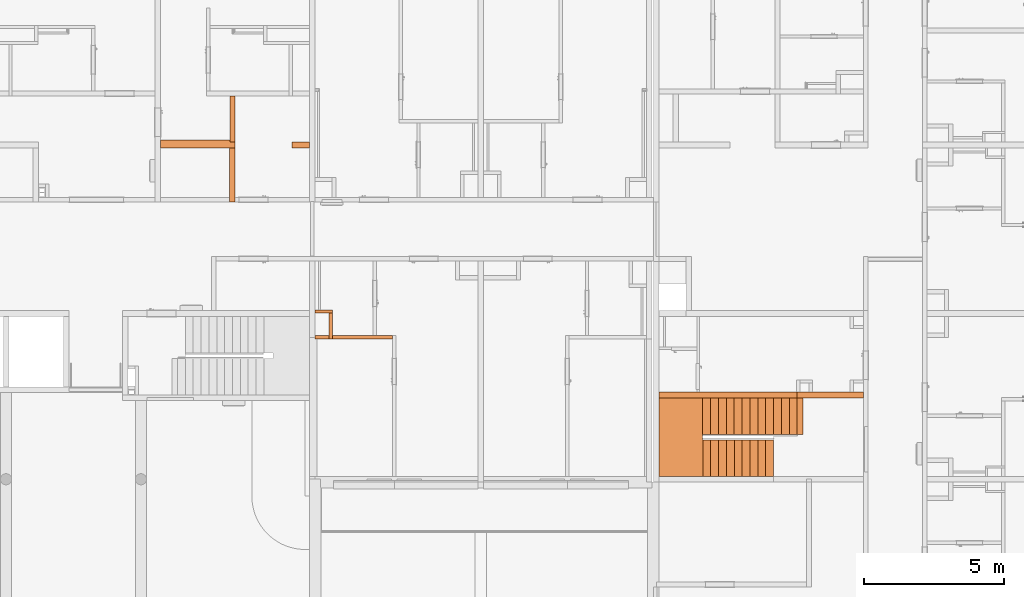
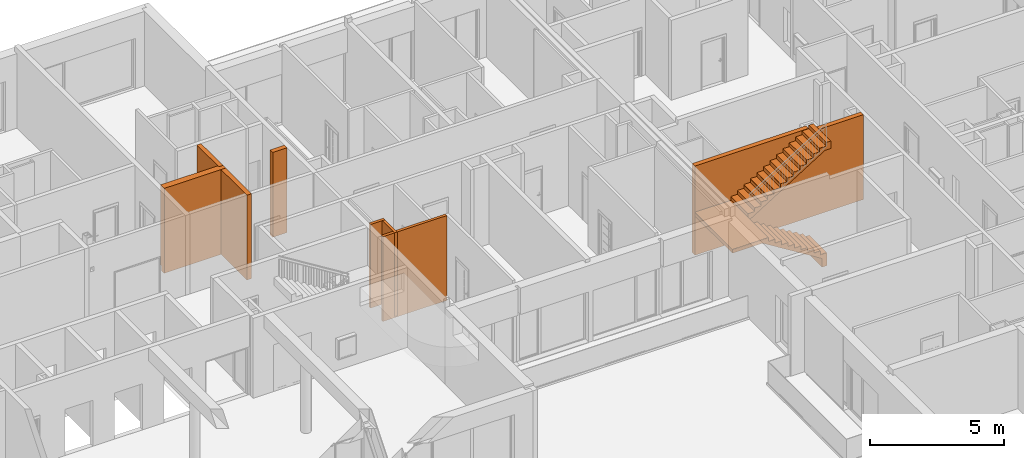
# One storey, part 39 of 46: 9 proxies.
"""IFC2X3 building model written with IfcOpenShell, lengths in millimetres."""

from ifc_helpers import new_model, entity, si_unit, converted_unit, derived_unit, money_unit, direction, frame, origin_with_axes, place, context, subcontext, project, spatial, faceted_brep, material, material_list, type_object, element, save


model = new_model("IFC2X3")

# Units and contexts
model_context = context("Model", 3, precision=0.01, world=origin_with_axes(), true_north=direction((0.34421633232, 0.938890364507)))
body_context = subcontext(model_context, "Body", "Model", "MODEL_VIEW")
ifc_project = project(units=[si_unit("LENGTHUNIT", "METRE", prefix="MILLI"), si_unit("AREAUNIT", "SQUARE_METRE"), si_unit("VOLUMEUNIT", "CUBIC_METRE"), converted_unit("PLANEANGLEUNIT", "DEGREE", entity("IfcPlaneAngleMeasure", 0.0174532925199), si_unit("PLANEANGLEUNIT", "RADIAN"), dimensions=[0, 0, 0, 0, 0, 0, 0]), si_unit("SOLIDANGLEUNIT", "STERADIAN"), money_unit("USD"), converted_unit("TIMEUNIT", "Year", entity("IfcTimeMeasure", 31556926.0), si_unit("TIMEUNIT", "SECOND"), dimensions=[0, 0, 1, 0, 0, 0, 0]), si_unit("MASSUNIT", "GRAM", prefix="KILO"), si_unit("THERMODYNAMICTEMPERATUREUNIT", "DEGREE_CELSIUS"), si_unit("LUMINOUSINTENSITYUNIT", "LUMEN"), si_unit("ENERGYUNIT", "JOULE", prefix="MEGA"), derived_unit("THERMALCONDUCTANCEUNIT", [(si_unit("POWERUNIT", "WATT"), 1), (si_unit("LENGTHUNIT", "METRE"), -1), (si_unit("THERMODYNAMICTEMPERATUREUNIT", "KELVIN"), -1)]), derived_unit("SPECIFICHEATCAPACITYUNIT", [(si_unit("ENERGYUNIT", "JOULE"), 1), (si_unit("MASSUNIT", "GRAM", prefix="KILO"), -1), (si_unit("THERMODYNAMICTEMPERATUREUNIT", "KELVIN"), -1)]), derived_unit("MASSDENSITYUNIT", [(si_unit("MASSUNIT", "GRAM", prefix="KILO"), 1), (si_unit("VOLUMEUNIT", "CUBIC_METRE"), -1)])], contexts=[model_context])

# Site, building, storey
site_placement = place(None, origin_with_axes())
site = spatial("IfcSite", under=ifc_project, at=site_placement, Name="USTRONIE MORSKIE", CompositionType="ELEMENT")
building_placement = place(site_placement, origin_with_axes())
building = spatial("IfcBuilding", under=site, at=building_placement, Name="Budynek", CompositionType="ELEMENT")
storey_placement = place(building_placement, origin_with_axes())
storey = spatial("IfcBuildingStorey", under=building, at=storey_placement, Name="PARTER", CompositionType="ELEMENT", Elevation=0.0)

# Proxies
ifc_material_1 = material(Name="Bloczki silikatowe")
building_element_proxy_type_1 = type_object("IfcBuildingElementProxyType", Name="Bloczki silikatowe 120", PredefinedType="NOTDEFINED")
proxy_1_placement = place(storey_placement, frame((396317.920919, 731951.199132, -230.0), z_axis=(0.0, 0.0, 1.0), x_axis=(1.0, 0.0, 0.0)))
element("IfcBuildingElementProxy", 1, at=proxy_1_placement, inside=storey, type_object=building_element_proxy_type_1, material=ifc_material_1, Name="SW-04", context=body_context, shape_type="Brep", body=[
    faceted_brep([(599.983065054, 59.9999999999, 3870.0), (599.983065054, 59.9999999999, 50.0), (719.983065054, 59.9999999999, 50.0), (719.983065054, 59.9999999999, 3870.0), (2860.01935038, 59.9999999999, 3870.0), (2860.01935038, 59.9999999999, 0.0), (100.0, 59.9999999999, 0.0), (100.0, 59.9999999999, 3870.0), (599.983065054, -59.9999999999, 50.0), (599.983065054, -59.9999999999, 3870.0), (719.983065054, -59.9999999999, 50.0), (719.983065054, -59.9999999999, 3870.0), (2860.01935038, -59.9999999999, 3870.0), (2860.01935038, -59.9999999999, 0.0), (100.0, -59.9999999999, 0.0), (100.0, 0.0, 0.0), (100.0, 0.0, 3870.0), (100.0, -59.9999999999, 3870.0)], [[[0, 1, 2, 3, 4, 5, 6, 7]], [[8, 1, 0, 9]], [[10, 2, 1, 8]], [[10, 11, 3, 2]], [[4, 3, 11, 12]], [[13, 5, 4, 12]], [[14, 15, 6, 5, 13]], [[15, 16, 7, 6]], [[17, 9, 0, 7, 16]], [[10, 8, 9, 17, 14, 13, 12, 11]], [[14, 17, 16, 15]]]),
])
proxy_2_placement = place(storey_placement, frame((396317.920919, 732811.204568, -180.0), z_axis=(0.0, 0.0, 1.0), x_axis=(1.0, 0.0, 0.0)))
element("IfcBuildingElementProxy", 2, at=proxy_2_placement, inside=storey, type_object=building_element_proxy_type_1, material=ifc_material_1, Name="SW-04", context=body_context, shape_type="Brep", body=[
    faceted_brep([(719.983065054, 0.0, 3820.0), (719.983065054, 120.0, 3820.0), (100.0, 120.0, 3820.0), (100.0, 0.0, 3820.0), (719.983065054, 0.0, 0.0), (719.983065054, 120.0, 0.0), (100.0, 120.0, 0.0), (100.0, 0.0, 0.0)], [[[0, 1, 2, 3]], [[1, 0, 4, 5]], [[1, 5, 6, 2]], [[7, 3, 2, 6]], [[4, 0, 3, 7]], [[5, 4, 7, 6]]]),
])
proxy_3_placement = place(storey_placement, frame((396917.903984, 732811.204568, -180.0), z_axis=(0.0, 0.0, 1.0), x_axis=(0.0, -1.0, 0.0)))
element("IfcBuildingElementProxy", 3, at=proxy_3_placement, inside=storey, type_object=building_element_proxy_type_1, material=ifc_material_1, Name="SW-04", context=body_context, shape_type="Brep", body=[
    faceted_brep([(920.005435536, 0.0, 3820.0), (920.005435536, 120.0, 3820.0), (0.0, 120.0, 3820.0), (0.0, 0.0, 3820.0), (920.005435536, 0.0, 0.0), (920.005435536, 120.0, 0.0), (0.0, 120.0, 0.0), (0.0, 0.0, 0.0)], [[[0, 1, 2, 3]], [[1, 0, 4, 5]], [[1, 5, 6, 2]], [[7, 3, 2, 6]], [[4, 0, 3, 7]], [[5, 4, 7, 6]]]),
])
ifc_material_2 = material(Name="Beton konstrukcyjny B25")
ifc_material_3 = material(Name="Płytki podłogowe")
ifc_material_list_1 = material_list([ifc_material_2, ifc_material_2, ifc_material_2, ifc_material_3, ifc_material_3, ifc_material_3, ifc_material_3, ifc_material_3, ifc_material_3, ifc_material_3, ifc_material_3, ifc_material_3, ifc_material_3, ifc_material_3, ifc_material_3, ifc_material_3, ifc_material_3, ifc_material_3, ifc_material_3, ifc_material_3, ifc_material_3, ifc_material_3, ifc_material_3, ifc_material_3, ifc_material_3])
building_element_proxy_type_2 = type_object("IfcBuildingElementProxyType", Name="Typ schodów", PredefinedType="NOTDEFINED")
proxy_4_placement = place(storey_placement, frame((412739.678547, 727001.199036, 0.0), z_axis=(0.0, 0.0, 1.0), x_axis=(-1.0, 0.0, 0.0)))
element("IfcBuildingElementProxy", 4, at=proxy_4_placement, inside=storey, type_object=building_element_proxy_type_2, material=ifc_material_list_1, Name="SCH2", context=body_context, shape_type="Brep", body=[
    faceted_brep([(2520.0, -1299.99999404, 1550.2173913), (2520.0, 0.0, 1550.2173913), (2240.0, 0.0, 1550.2173913), (2240.0, -1300.0, 1550.2173913), (2520.0, -1299.99999404, 1564.13043478), (2520.0, 0.0, 1564.13043478), (2520.0, 0.0, 1408.95401591), (2426.66666667, 0.0, 1350.98300141), (2333.33333333, 0.0, 1293.01198692), (2240.0, 0.0, 1235.04097243), (2146.66666667, 0.0, 1177.06995793), (2053.33333333, 0.0, 1119.09894344), (1960.0, 0.0, 1061.12792895), (1866.66666667, 0.0, 1003.15691446), (1773.33333333, 0.0, 945.185899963), (1680.0, 0.0, 887.214885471), (1586.66666667, 0.0, 829.243870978), (1493.33333333, 0.0, 771.272856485), (1400.0, 0.0, 713.301841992), (1306.66666667, 0.0, 655.3308275), (1213.33333333, 0.0, 597.359813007), (1120.0, 0.0, 539.388798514), (1026.66666667, 0.0, 481.417784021), (933.333333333, 0.0, 423.446769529), (840.0, 0.0, 365.475755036), (746.666666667, 0.0, 307.504740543), (653.333333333, 0.0, 249.53372605), (560.0, 0.0, 191.562711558), (466.666666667, 0.0, 133.591697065), (373.333333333, 0.0, 75.620682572), (280.0, 0.0, 17.6496680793), (200.0, 0.0, -32.0397729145), (200.0, 0.0, -430.0), (0.0, 0.0, -430.0), (0.0, 0.0, -156.263375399), (0.0, 0.0, 158.913043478), (280.0, 0.0, 158.913043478), (280.0, 0.0, 332.826086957), (560.0, 0.0, 332.826086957), (560.0, 0.0, 506.739130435), (840.0, 0.0, 506.739130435), (840.0, 0.0, 680.652173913), (1120.0, 0.0, 680.652173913), (1120.0, 0.0, 854.565217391), (1400.0, 0.0, 854.565217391), (1400.0, 0.0, 1028.47826087), (1680.0, 0.0, 1028.47826087), (1680.0, 0.0, 1202.39130435), (1960.0, 0.0, 1202.39130435), (1960.0, 0.0, 1376.30434783), (2240.0, 0.0, 1376.30434783), (2769.83401879, 0.0, 1564.13043478), (2240.0, -1300.0, 1376.30434783), (1960.0, -1300.0, 1376.30434783), (1960.0, -1300.0, 1202.39130435), (1680.0, -1300.0, 1202.39130435), (1680.0, -1300.0, 1028.47826087), (1400.0, -1300.0, 1028.47826087), (1400.0, -1300.0, 854.565217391), (1120.0, -1300.0, 854.565217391), (1120.0, -1300.0, 680.652173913), (840.0, -1300.0, 680.652173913), (840.0, -1300.0, 506.739130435), (560.0, -1300.0, 506.739130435), (560.0, -1300.0, 332.826086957), (280.0, -1300.0, 332.826086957), (280.0, -1300.0, 158.913043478), (0.0, -1300.0, 158.913043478), (0.0, -1300.0, -156.263375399), (0.0, -1300.0, -430.0), (200.0, -1300.0, -430.0), (200.0, -1300.0, -32.0397729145), (280.0, -1300.0, 17.6496680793), (373.333333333, -1300.0, 75.620682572), (466.666666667, -1300.0, 133.591697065), (560.0, -1300.0, 191.562711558), (653.333333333, -1300.0, 249.53372605), (746.666666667, -1300.0, 307.504740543), (840.0, -1300.0, 365.475755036), (933.333333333, -1300.0, 423.446769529), (1026.66666667, -1300.0, 481.417784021), (1120.0, -1300.0, 539.388798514), (1213.33333333, -1300.0, 597.359813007), (1306.66666667, -1300.0, 655.3308275), (1400.0, -1300.0, 713.301841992), (1493.33333333, -1300.0, 771.272856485), (1586.66666667, -1300.0, 829.243870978), (1680.0, -1300.0, 887.214885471), (1773.33333333, -1300.0, 945.185899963), (1866.66666667, -1300.0, 1003.15691446), (1960.0, -1300.0, 1061.12792895), (2053.33333333, -1300.0, 1119.09894344), (2146.66666667, -1300.0, 1177.06995793), (2240.0, -1300.0, 1235.04097243), (2333.33333333, -1300.0, 1293.01198692), (2426.66666667, -1300.0, 1350.98300141), (2520.0, -1299.99999404, 1408.95401591), (2769.83401879, -1299.99999404, 1564.13043478)], [[[0, 1, 2, 3]], [[1, 0, 4, 5]], [[6, 7, 8, 9, 10, 11, 12, 13, 14, 15, 16, 17, 18, 19, 20, 21, 22, 23, 24, 25, 26, 27, 28, 29, 30, 31, 32, 33, 34, 35, 36, 37, 38, 39, 40, 41, 42, 43, 44, 45, 46, 47, 48, 49, 50, 2, 1, 5, 51]], [[52, 3, 2, 50]], [[0, 3, 52, 53, 54, 55, 56, 57, 58, 59, 60, 61, 62, 63, 64, 65, 66, 67, 68, 69, 70, 71, 72, 73, 74, 75, 76, 77, 78, 79, 80, 81, 82, 83, 84, 85, 86, 87, 88, 89, 90, 91, 92, 93, 94, 95, 96, 97, 4]], [[5, 4, 97, 51]], [[96, 95, 7, 6, 51, 97]], [[95, 94, 8, 7]], [[94, 93, 9, 8]], [[93, 92, 10, 9]], [[92, 91, 11, 10]], [[91, 90, 12, 11]], [[90, 89, 13, 12]], [[89, 88, 14, 13]], [[88, 87, 15, 14]], [[87, 86, 16, 15]], [[86, 85, 17, 16]], [[85, 84, 18, 17]], [[84, 83, 19, 18]], [[83, 82, 20, 19]], [[82, 81, 21, 20]], [[81, 80, 22, 21]], [[80, 79, 23, 22]], [[79, 78, 24, 23]], [[78, 77, 25, 24]], [[77, 76, 26, 25]], [[76, 75, 27, 26]], [[75, 74, 28, 27]], [[74, 73, 29, 28]], [[73, 72, 30, 29]], [[72, 71, 31, 30]], [[32, 31, 71, 70]], [[32, 70, 69, 33]], [[69, 68, 34, 33]], [[35, 34, 68, 67]], [[36, 35, 67, 66]], [[66, 65, 37, 36]], [[38, 37, 65, 64]], [[64, 63, 39, 38]], [[40, 39, 63, 62]], [[62, 61, 41, 40]], [[42, 41, 61, 60]], [[60, 59, 43, 42]], [[44, 43, 59, 58]], [[58, 57, 45, 44]], [[46, 45, 57, 56]], [[56, 55, 47, 46]], [[48, 47, 55, 54]], [[54, 53, 49, 48]], [[50, 49, 53, 52]]]),
    faceted_brep([(2551.90509143, -1500.00000596, 1724.13043478), (2551.90509143, -2800.0, 1724.13043478), (4071.73913043, -2800.0, 1724.13043478), (4071.73913043, 0.0, 1724.13043478), (2520.0, 0.0, 1724.13043478), (2520.0, -1300.0, 1724.13043478), (2521.73913043, -1300.0, 1724.13043478), (2521.73911022, -1500.00000596, 1724.13043478), (2551.90509143, -1500.00000596, 1564.13043478), (2551.90509143, -2800.0, 1564.13043478), (4071.73913043, -2800.0, 1564.13043478), (4071.73913043, 0.0, 1564.13043478), (2520.0, 0.0, 1564.13043478), (2520.0, -1300.0, 1564.13043478), (2521.73913043, -1300.0, 1564.13043478), (2521.73911022, -1500.00000596, 1564.13043478)], [[[0, 1, 2, 3, 4, 5, 6, 7]], [[1, 0, 8, 9]], [[1, 9, 10, 2]], [[2, 10, 11, 3]], [[3, 11, 12, 4]], [[4, 12, 13, 5]], [[5, 13, 14, 6]], [[15, 7, 6, 14]], [[0, 7, 15, 8]], [[8, 15, 14, 13, 12, 11, 10, 9]]]),
    faceted_brep([(-744.927536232, -2800.0, 3611.85256663), (-790.244903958, -2800.0, 3640.0), (-790.244903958, -1500.0, 3640.0), (-744.927536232, -1500.0, 3611.85256663), (-1038.26086957, -2800.0, 3640.0), (-651.594202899, -2800.0, 3553.88155214), (-558.260869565, -2800.0, 3495.91053764), (-464.927536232, -2800.0, 3437.93952315), (-371.594202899, -2800.0, 3379.96850866), (-278.260869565, -2800.0, 3321.99749417), (-184.927536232, -2800.0, 3264.02647967), (-91.5942028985, -2800.0, 3206.05546518), (1.73913043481, -2800.0, 3148.08445069), (95.0724637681, -2800.0, 3090.1134362), (188.405797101, -2800.0, 3032.1424217), (281.739130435, -2800.0, 2974.17140721), (375.072463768, -2800.0, 2916.20039272), (468.405797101, -2800.0, 2858.22937822), (561.739130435, -2800.0, 2800.25836373), (655.072463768, -2800.0, 2742.28734924), (748.405797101, -2800.0, 2684.31633475), (841.739130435, -2800.0, 2626.34532025), (935.072463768, -2800.0, 2568.37430576), (1028.4057971, -2800.0, 2510.40329127), (1121.73913043, -2800.0, 2452.43227677), (1215.07246377, -2800.0, 2394.46126228), (1308.4057971, -2800.0, 2336.49024779), (1401.73913043, -2800.0, 2278.5192333), (1495.07246377, -2800.0, 2220.5482188), (1588.4057971, -2800.0, 2162.57720431), (1681.73913043, -2800.0, 2104.60618982), (1775.07246377, -2800.0, 2046.63517532), (1868.4057971, -2800.0, 1988.66416083), (1961.73913043, -2800.0, 1930.69314632), (2055.07246377, -2800.0, 1872.72213178), (2148.4057971, -2800.0, 1814.75111723), (2241.73913043, -2800.0, 1756.78010265), (2335.07246327, -2800.0, 1698.80908826), (2428.40579611, -2800.0, 1640.83807383), (2521.73911022, -2800.0, 1582.86707101), (2551.90509143, -2800.0, 1564.13043672), (2551.90509143, -2800.0, 1724.13043478), (2521.73911022, -2800.0, 1724.13043478), (2521.73912894, -2800.0, 1898.04347826), (2241.73913043, -2800.0, 1898.04347826), (2241.73913043, -2800.0, 2071.95652174), (1961.73913043, -2800.0, 2071.95652174), (1961.73913043, -2800.0, 2245.86956522), (1681.73913043, -2800.0, 2245.86956522), (1681.73913043, -2800.0, 2419.7826087), (1401.73913043, -2800.0, 2419.7826087), (1401.73913043, -2800.0, 2593.69565217), (1121.73913043, -2800.0, 2593.69565217), (1121.73913043, -2800.0, 2767.60869565), (841.739130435, -2800.0, 2767.60869565), (841.739130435, -2800.0, 2941.52173913), (561.739130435, -2800.0, 2941.52173913), (561.739130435, -2800.0, 3115.43478261), (281.739130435, -2800.0, 3115.43478261), (281.739130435, -2800.0, 3289.34782609), (1.73913043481, -2800.0, 3289.34782609), (1.73913043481, -2800.0, 3463.26086957), (-278.260869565, -2800.0, 3463.26086957), (-278.260869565, -2800.0, 3637.17391304), (-558.260869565, -2800.0, 3637.17391304), (-558.260869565, -2800.0, 3811.08695652), (-838.260869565, -2800.0, 3811.08695652), (-838.260869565, -2800.0, 3985.0), (-1038.26086957, -2800.0, 3985.0), (-1038.26086957, -1500.0, 3640.0), (-1038.26086957, -1500.0, 3985.0), (-838.260869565, -1500.0, 3985.0), (-838.260869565, -1500.0, 3811.08695652), (-558.260869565, -1500.0, 3811.08695652), (-558.260869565, -1500.0, 3637.17391304), (-278.260869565, -1500.0, 3637.17391304), (-278.260869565, -1500.0, 3463.26086957), (1.73913043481, -1500.0, 3463.26086957), (1.73913043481, -1500.0, 3289.34782609), (281.739130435, -1500.0, 3289.34782609), (281.739130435, -1500.0, 3115.43478261), (561.739130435, -1500.0, 3115.43478261), (561.739130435, -1500.0, 2941.52173913), (841.739130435, -1500.0, 2941.52173913), (841.739130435, -1500.0, 2767.60869565), (1121.73913043, -1500.0, 2767.60869565), (1121.73913043, -1500.0, 2593.69565217), (1401.73913043, -1500.0, 2593.69565217), (1401.73913043, -1500.0, 2419.7826087), (1681.73913043, -1500.0, 2419.7826087), (1681.73913043, -1500.0, 2245.86956522), (1961.73913043, -1500.0, 2245.86956522), (1961.73913043, -1500.0, 2071.95652174), (2241.73913043, -1500.0, 2071.95652174), (2241.73913043, -1500.0, 1898.04347826), (2521.73912894, -1500.0, 1898.04347826), (2521.73911022, -1500.00000596, 1724.13043478), (2551.90509143, -1500.00000596, 1724.13043478), (2551.90509143, -1500.00000596, 1564.13043672), (2521.73911022, -1500.00000596, 1582.86707101), (2428.40579611, -1500.0, 1640.83807383), (2335.07246327, -1500.0, 1698.80908826), (2241.73913043, -1500.0, 1756.78010265), (2148.4057971, -1500.0, 1814.75111723), (2055.07246377, -1500.0, 1872.72213178), (1961.73913043, -1500.0, 1930.69314632), (1868.4057971, -1500.0, 1988.66416083), (1775.07246377, -1500.0, 2046.63517532), (1681.73913043, -1500.0, 2104.60618982), (1588.4057971, -1500.0, 2162.57720431), (1495.07246377, -1500.0, 2220.5482188), (1401.73913043, -1500.0, 2278.5192333), (1308.4057971, -1500.0, 2336.49024779), (1215.07246377, -1500.0, 2394.46126228), (1121.73913043, -1500.0, 2452.43227677), (1028.4057971, -1500.0, 2510.40329127), (935.072463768, -1500.0, 2568.37430576), (841.739130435, -1500.0, 2626.34532025), (748.405797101, -1500.0, 2684.31633475), (655.072463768, -1500.0, 2742.28734924), (561.739130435, -1500.0, 2800.25836373), (468.405797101, -1500.0, 2858.22937822), (375.072463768, -1500.0, 2916.20039272), (281.739130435, -1500.0, 2974.17140721), (188.405797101, -1500.0, 3032.1424217), (95.0724637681, -1500.0, 3090.1134362), (1.73913043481, -1500.0, 3148.08445069), (-91.5942028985, -1500.0, 3206.05546518), (-184.927536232, -1500.0, 3264.02647967), (-278.260869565, -1500.0, 3321.99749417), (-371.594202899, -1500.0, 3379.96850866), (-464.927536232, -1500.0, 3437.93952315), (-558.260869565, -1500.0, 3495.91053764), (-651.594202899, -1500.0, 3553.88155214)], [[[0, 1, 2, 3]], [[4, 1, 0, 5, 6, 7, 8, 9, 10, 11, 12, 13, 14, 15, 16, 17, 18, 19, 20, 21, 22, 23, 24, 25, 26, 27, 28, 29, 30, 31, 32, 33, 34, 35, 36, 37, 38, 39, 40, 41, 42, 43, 44, 45, 46, 47, 48, 49, 50, 51, 52, 53, 54, 55, 56, 57, 58, 59, 60, 61, 62, 63, 64, 65, 66, 67, 68]], [[69, 2, 1, 4]], [[3, 2, 69, 70, 71, 72, 73, 74, 75, 76, 77, 78, 79, 80, 81, 82, 83, 84, 85, 86, 87, 88, 89, 90, 91, 92, 93, 94, 95, 96, 97, 98, 99, 100, 101, 102, 103, 104, 105, 106, 107, 108, 109, 110, 111, 112, 113, 114, 115, 116, 117, 118, 119, 120, 121, 122, 123, 124, 125, 126, 127, 128, 129, 130, 131, 132, 133]], [[133, 5, 0, 3]], [[132, 6, 5, 133]], [[131, 7, 6, 132]], [[130, 8, 7, 131]], [[129, 9, 8, 130]], [[128, 10, 9, 129]], [[127, 11, 10, 128]], [[126, 12, 11, 127]], [[125, 13, 12, 126]], [[124, 14, 13, 125]], [[123, 15, 14, 124]], [[122, 16, 15, 123]], [[121, 17, 16, 122]], [[120, 18, 17, 121]], [[119, 19, 18, 120]], [[118, 20, 19, 119]], [[117, 21, 20, 118]], [[116, 22, 21, 117]], [[115, 23, 22, 116]], [[114, 24, 23, 115]], [[113, 25, 24, 114]], [[112, 26, 25, 113]], [[111, 27, 26, 112]], [[110, 28, 27, 111]], [[109, 29, 28, 110]], [[108, 30, 29, 109]], [[107, 31, 30, 108]], [[106, 32, 31, 107]], [[105, 33, 32, 106]], [[104, 34, 33, 105]], [[103, 35, 34, 104]], [[102, 36, 35, 103]], [[101, 37, 36, 102]], [[100, 38, 37, 101]], [[38, 100, 99, 39]], [[98, 40, 39, 99]], [[41, 40, 98, 97]], [[41, 97, 96, 42]], [[95, 43, 42, 96]], [[94, 44, 43, 95]], [[44, 94, 93, 45]], [[92, 46, 45, 93]], [[46, 92, 91, 47]], [[90, 48, 47, 91]], [[48, 90, 89, 49]], [[88, 50, 49, 89]], [[50, 88, 87, 51]], [[86, 52, 51, 87]], [[52, 86, 85, 53]], [[84, 54, 53, 85]], [[54, 84, 83, 55]], [[82, 56, 55, 83]], [[56, 82, 81, 57]], [[80, 58, 57, 81]], [[58, 80, 79, 59]], [[78, 60, 59, 79]], [[60, 78, 77, 61]], [[76, 62, 61, 77]], [[62, 76, 75, 63]], [[74, 64, 63, 75]], [[64, 74, 73, 65]], [[73, 72, 66, 65]], [[67, 66, 72, 71]], [[67, 71, 70, 68]], [[4, 68, 70, 69]]]),
    faceted_brep([(0.0, 0.0, 163.913043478), (0.0, -1300.0, 163.913043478), (0.0, -1300.0, 173.913043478), (0.0, 0.0, 173.913043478), (280.0, 0.0, 163.913043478), (280.0, -1300.0, 163.913043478), (280.0, -1300.0, 173.913043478), (280.0, 0.0, 173.913043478)], [[[0, 1, 2, 3]], [[0, 4, 5, 1]], [[1, 5, 6, 2]], [[3, 2, 6, 7]], [[4, 0, 3, 7]], [[5, 4, 7, 6]]]),
    faceted_brep([(280.0, 0.0, 337.826086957), (280.0, -1300.0, 337.826086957), (280.0, -1300.0, 347.826086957), (280.0, 0.0, 347.826086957), (560.0, 0.0, 337.826086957), (560.0, -1300.0, 337.826086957), (560.0, -1300.0, 347.826086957), (560.0, 0.0, 347.826086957)], [[[0, 1, 2, 3]], [[0, 4, 5, 1]], [[1, 5, 6, 2]], [[3, 2, 6, 7]], [[4, 0, 3, 7]], [[5, 4, 7, 6]]]),
    faceted_brep([(560.0, 0.0, 511.739130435), (560.0, -1300.0, 511.739130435), (560.0, -1300.0, 521.739130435), (560.0, 0.0, 521.739130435), (840.0, 0.0, 511.739130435), (840.0, -1300.0, 511.739130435), (840.0, -1300.0, 521.739130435), (840.0, 0.0, 521.739130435)], [[[0, 1, 2, 3]], [[0, 4, 5, 1]], [[1, 5, 6, 2]], [[3, 2, 6, 7]], [[4, 0, 3, 7]], [[5, 4, 7, 6]]]),
    faceted_brep([(840.0, 0.0, 685.652173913), (840.0, -1300.0, 685.652173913), (840.0, -1300.0, 695.652173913), (840.0, 0.0, 695.652173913), (1120.0, 0.0, 685.652173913), (1120.0, -1300.0, 685.652173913), (1120.0, -1300.0, 695.652173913), (1120.0, 0.0, 695.652173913)], [[[0, 1, 2, 3]], [[0, 4, 5, 1]], [[1, 5, 6, 2]], [[3, 2, 6, 7]], [[4, 0, 3, 7]], [[5, 4, 7, 6]]]),
    faceted_brep([(1120.0, 0.0, 859.565217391), (1120.0, -1300.0, 859.565217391), (1120.0, -1300.0, 869.565217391), (1120.0, 0.0, 869.565217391), (1400.0, 0.0, 859.565217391), (1400.0, -1300.0, 859.565217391), (1400.0, -1300.0, 869.565217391), (1400.0, 0.0, 869.565217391)], [[[0, 1, 2, 3]], [[0, 4, 5, 1]], [[1, 5, 6, 2]], [[3, 2, 6, 7]], [[4, 0, 3, 7]], [[5, 4, 7, 6]]]),
    faceted_brep([(1400.0, 0.0, 1033.47826087), (1400.0, -1300.0, 1033.47826087), (1400.0, -1300.0, 1043.47826087), (1400.0, 0.0, 1043.47826087), (1680.0, 0.0, 1033.47826087), (1680.0, -1300.0, 1033.47826087), (1680.0, -1300.0, 1043.47826087), (1680.0, 0.0, 1043.47826087)], [[[0, 1, 2, 3]], [[0, 4, 5, 1]], [[1, 5, 6, 2]], [[3, 2, 6, 7]], [[4, 0, 3, 7]], [[5, 4, 7, 6]]]),
    faceted_brep([(1680.0, 0.0, 1207.39130435), (1680.0, -1300.0, 1207.39130435), (1680.0, -1300.0, 1217.39130435), (1680.0, 0.0, 1217.39130435), (1960.0, 0.0, 1207.39130435), (1960.0, -1300.0, 1207.39130435), (1960.0, -1300.0, 1217.39130435), (1960.0, 0.0, 1217.39130435)], [[[0, 1, 2, 3]], [[0, 4, 5, 1]], [[1, 5, 6, 2]], [[3, 2, 6, 7]], [[4, 0, 3, 7]], [[5, 4, 7, 6]]]),
    faceted_brep([(1960.0, 0.0, 1381.30434783), (1960.0, -1300.0, 1381.30434783), (1960.0, -1300.0, 1391.30434783), (1960.0, 0.0, 1391.30434783), (2240.0, 0.0, 1381.30434783), (2240.0, -1300.0, 1381.30434783), (2240.0, -1300.0, 1391.30434783), (2240.0, 0.0, 1391.30434783)], [[[0, 1, 2, 3]], [[0, 4, 5, 1]], [[1, 5, 6, 2]], [[3, 2, 6, 7]], [[4, 0, 3, 7]], [[5, 4, 7, 6]]]),
    faceted_brep([(2240.0, 0.0, 1555.2173913), (2240.0, -1300.0, 1555.2173913), (2240.0, -1300.0, 1565.2173913), (2240.0, 0.0, 1565.2173913), (2520.0, 0.0, 1555.2173913), (2520.0, -1300.0, 1555.2173913), (2520.0, -1300.0, 1565.2173913), (2520.0, 0.0, 1565.2173913)], [[[0, 1, 2, 3]], [[0, 4, 5, 1]], [[1, 5, 6, 2]], [[3, 2, 6, 7]], [[4, 0, 3, 7]], [[5, 4, 7, 6]]]),
    faceted_brep([(2520.0, 0.0, 1729.13043478), (2520.0, -1299.99999404, 1729.13043478), (2520.0, -1299.99999404, 1739.13043478), (2520.0, 0.0, 1739.13043478), (2521.73911022, 0.0, 1729.13043478), (4071.73914002, 0.0, 1729.13043478), (4071.73914002, -2800.0, 1729.13043478), (2521.73911022, -2800.0, 1729.13043478), (2521.73911022, -1500.00000596, 1729.13043478), (2521.73911022, -1299.99999404, 1729.13043478), (2521.73911022, -1299.99999404, 1739.13043478), (2521.73911022, -1500.00000596, 1739.13043478), (2521.73911022, -2800.0, 1739.13043478), (4071.73914002, -2800.0, 1739.13043478), (4071.73914002, 0.0, 1739.13043478), (2521.73911022, 0.0, 1739.13043478)], [[[0, 1, 2, 3]], [[0, 4, 5, 6, 7, 8, 9, 1]], [[1, 9, 10, 2]], [[3, 2, 10, 11, 12, 13, 14, 15]], [[4, 0, 3, 15]], [[5, 4, 15, 14]], [[6, 5, 14, 13]], [[7, 6, 13, 12]], [[8, 7, 12, 11]], [[9, 8, 11, 10]]]),
    faceted_brep([(2241.73913043, -2800.0, 1903.04347826), (2521.73912894, -2800.0, 1903.04347826), (2521.73912894, -2800.0, 1913.04347826), (2241.73913043, -2800.0, 1913.04347826), (2241.73913043, -1500.0, 1903.04347826), (2521.73912894, -1500.0, 1903.04347826), (2521.73912894, -1500.0, 1913.04347826), (2241.73913043, -1500.0, 1913.04347826)], [[[0, 1, 2, 3]], [[0, 4, 5, 1]], [[1, 5, 6, 2]], [[3, 2, 6, 7]], [[4, 0, 3, 7]], [[5, 4, 7, 6]]]),
    faceted_brep([(2241.73913043, -2800.0, 2076.95652174), (2241.73913043, -1500.0, 2076.95652174), (2241.73913043, -1500.0, 2086.95652174), (2241.73913043, -2800.0, 2086.95652174), (1961.73913043, -2800.0, 2076.95652174), (1961.73913043, -1500.0, 2076.95652174), (1961.73913043, -1500.0, 2086.95652174), (1961.73913043, -2800.0, 2086.95652174)], [[[0, 1, 2, 3]], [[0, 4, 5, 1]], [[1, 5, 6, 2]], [[3, 2, 6, 7]], [[4, 0, 3, 7]], [[5, 4, 7, 6]]]),
    faceted_brep([(1961.73913043, -2800.0, 2250.86956522), (1961.73913043, -1500.0, 2250.86956522), (1961.73913043, -1500.0, 2260.86956522), (1961.73913043, -2800.0, 2260.86956522), (1681.73913043, -2800.0, 2250.86956522), (1681.73913043, -1500.0, 2250.86956522), (1681.73913043, -1500.0, 2260.86956522), (1681.73913043, -2800.0, 2260.86956522)], [[[0, 1, 2, 3]], [[0, 4, 5, 1]], [[1, 5, 6, 2]], [[3, 2, 6, 7]], [[4, 0, 3, 7]], [[5, 4, 7, 6]]]),
    faceted_brep([(1681.73913043, -2800.0, 2424.7826087), (1681.73913043, -1500.0, 2424.7826087), (1681.73913043, -1500.0, 2434.7826087), (1681.73913043, -2800.0, 2434.7826087), (1401.73913043, -2800.0, 2424.7826087), (1401.73913043, -1500.0, 2424.7826087), (1401.73913043, -1500.0, 2434.7826087), (1401.73913043, -2800.0, 2434.7826087)], [[[0, 1, 2, 3]], [[0, 4, 5, 1]], [[1, 5, 6, 2]], [[3, 2, 6, 7]], [[4, 0, 3, 7]], [[5, 4, 7, 6]]]),
    faceted_brep([(1401.73913043, -2800.0, 2598.69565217), (1401.73913043, -1500.0, 2598.69565217), (1401.73913043, -1500.0, 2608.69565217), (1401.73913043, -2800.0, 2608.69565217), (1121.73913043, -2800.0, 2598.69565217), (1121.73913043, -1500.0, 2598.69565217), (1121.73913043, -1500.0, 2608.69565217), (1121.73913043, -2800.0, 2608.69565217)], [[[0, 1, 2, 3]], [[0, 4, 5, 1]], [[1, 5, 6, 2]], [[3, 2, 6, 7]], [[4, 0, 3, 7]], [[5, 4, 7, 6]]]),
    faceted_brep([(1121.73913043, -2800.0, 2772.60869565), (1121.73913043, -1500.0, 2772.60869565), (1121.73913043, -1500.0, 2782.60869565), (1121.73913043, -2800.0, 2782.60869565), (841.739130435, -2800.0, 2772.60869565), (841.739130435, -1500.0, 2772.60869565), (841.739130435, -1500.0, 2782.60869565), (841.739130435, -2800.0, 2782.60869565)], [[[0, 1, 2, 3]], [[0, 4, 5, 1]], [[1, 5, 6, 2]], [[3, 2, 6, 7]], [[4, 0, 3, 7]], [[5, 4, 7, 6]]]),
    faceted_brep([(841.739130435, -2800.0, 2946.52173913), (841.739130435, -1500.0, 2946.52173913), (841.739130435, -1500.0, 2956.52173913), (841.739130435, -2800.0, 2956.52173913), (561.739130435, -2800.0, 2946.52173913), (561.739130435, -1500.0, 2946.52173913), (561.739130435, -1500.0, 2956.52173913), (561.739130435, -2800.0, 2956.52173913)], [[[0, 1, 2, 3]], [[0, 4, 5, 1]], [[1, 5, 6, 2]], [[3, 2, 6, 7]], [[4, 0, 3, 7]], [[5, 4, 7, 6]]]),
    faceted_brep([(561.739130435, -2800.0, 3120.43478261), (561.739130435, -1500.0, 3120.43478261), (561.739130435, -1500.0, 3130.43478261), (561.739130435, -2800.0, 3130.43478261), (281.739130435, -2800.0, 3120.43478261), (281.739130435, -1500.0, 3120.43478261), (281.739130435, -1500.0, 3130.43478261), (281.739130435, -2800.0, 3130.43478261)], [[[0, 1, 2, 3]], [[0, 4, 5, 1]], [[1, 5, 6, 2]], [[3, 2, 6, 7]], [[4, 0, 3, 7]], [[5, 4, 7, 6]]]),
    faceted_brep([(281.739130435, -2800.0, 3294.34782609), (281.739130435, -1500.0, 3294.34782609), (281.739130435, -1500.0, 3304.34782609), (281.739130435, -2800.0, 3304.34782609), (1.73913043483, -2800.0, 3294.34782609), (1.73913043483, -1500.0, 3294.34782609), (1.73913043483, -1500.0, 3304.34782609), (1.73913043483, -2800.0, 3304.34782609)], [[[0, 1, 2, 3]], [[0, 4, 5, 1]], [[1, 5, 6, 2]], [[3, 2, 6, 7]], [[4, 0, 3, 7]], [[5, 4, 7, 6]]]),
    faceted_brep([(1.73913043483, -2800.0, 3468.26086957), (1.73913043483, -1500.0, 3468.26086957), (1.73913043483, -1500.0, 3478.26086957), (1.73913043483, -2800.0, 3478.26086957), (-278.260869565, -2800.0, 3468.26086957), (-278.260869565, -1500.0, 3468.26086957), (-278.260869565, -1500.0, 3478.26086957), (-278.260869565, -2800.0, 3478.26086957)], [[[0, 1, 2, 3]], [[0, 4, 5, 1]], [[1, 5, 6, 2]], [[3, 2, 6, 7]], [[4, 0, 3, 7]], [[5, 4, 7, 6]]]),
    faceted_brep([(-278.260869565, -2800.0, 3642.17391304), (-278.260869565, -1500.0, 3642.17391304), (-278.260869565, -1500.0, 3652.17391304), (-278.260869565, -2800.0, 3652.17391304), (-558.260869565, -2800.0, 3642.17391304), (-558.260869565, -1500.0, 3642.17391304), (-558.260869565, -1500.0, 3652.17391304), (-558.260869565, -2800.0, 3652.17391304)], [[[0, 1, 2, 3]], [[0, 4, 5, 1]], [[1, 5, 6, 2]], [[3, 2, 6, 7]], [[4, 0, 3, 7]], [[5, 4, 7, 6]]]),
    faceted_brep([(-558.260869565, -2800.0, 3816.08695652), (-558.260869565, -1500.0, 3816.08695652), (-558.260869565, -1500.0, 3826.08695652), (-558.260869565, -2800.0, 3826.08695652), (-838.260869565, -2800.0, 3816.08695652), (-838.260869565, -1500.0, 3816.08695652), (-838.260869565, -1500.0, 3826.08695652), (-838.260869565, -2800.0, 3826.08695652)], [[[0, 1, 2, 3]], [[0, 4, 5, 1]], [[1, 5, 6, 2]], [[3, 2, 6, 7]], [[4, 0, 3, 7]], [[5, 4, 7, 6]]]),
])
building_element_proxy_type_3 = type_object("IfcBuildingElementProxyType", Name="Bloczki silikatowe 180", PredefinedType="NOTDEFINED")
proxy_5_placement = place(storey_placement, frame((393567.920919, 738801.199036, -230.0), z_axis=(0.0, 0.0, 1.0), x_axis=(0.0, 1.0, 0.0)))
element("IfcBuildingElementProxy", 5, at=proxy_5_placement, inside=storey, type_object=building_element_proxy_type_3, material=ifc_material_1, Name="SW-02", context=body_context, shape_type="Brep", body=[
    faceted_brep([(1740.0, 180.0, 0.0), (1740.0, 0.0, 0.0), (100.0, 0.0, 0.0), (100.0, 180.0, 0.0), (1740.0, 180.0, 3870.0), (1740.0, 0.0, 3870.0), (100.0, 0.0, 3870.0), (100.0, 180.0, 3870.0)], [[[0, 1, 2, 3]], [[1, 0, 4, 5]], [[1, 5, 6, 2]], [[7, 3, 2, 6]], [[4, 0, 3, 7]], [[5, 4, 7, 6]]]),
])
building_element_proxy_type_4 = type_object("IfcBuildingElementProxyType", Name="Beton konstrukcyjny B25 200", PredefinedType="NOTDEFINED")
proxy_6_placement = place(storey_placement, frame((393367.920919, 736851.199036, -230.0), z_axis=(0.0, 0.0, 1.0), x_axis=(0.0, 1.0, 0.0)))
element("IfcBuildingElementProxy", 6, at=proxy_6_placement, inside=storey, type_object=building_element_proxy_type_4, material=ifc_material_2, Name="SW-01", context=body_context, shape_type="Brep", body=[
    faceted_brep([(1850.0, 0.0, 3870.0), (0.0, 0.0, 3870.0), (0.0, -200.0, 3870.0), (1850.0, -200.0, 3870.0), (-80.0, 0.0, 3870.0), (1850.0, 0.0, 0.0), (-80.0, 0.0, 0.0), (-80.0, -200.0, 3870.0), (-80.0, -200.0, 0.0), (1850.0, -200.0, 0.0)], [[[0, 1, 2, 3]], [[4, 1, 0, 5, 6]], [[7, 2, 1, 4]], [[3, 2, 7, 8, 9]], [[5, 0, 3, 9]], [[8, 6, 5, 9]], [[7, 4, 6, 8]]]),
])
proxy_7_placement = place(storey_placement, frame((395597.920919, 738801.199036, -230.0), z_axis=(0.0, 0.0, 1.0), x_axis=(1.0, 0.0, 0.0)))
element("IfcBuildingElementProxy", 7, at=proxy_7_placement, inside=storey, type_object=building_element_proxy_type_4, material=ifc_material_2, Name="SW-01", context=body_context, shape_type="Brep", body=[
    faceted_brep([(620.0, 100.0, 0.0), (620.0, -100.0, 0.0), (0.0, -100.0, 0.0), (0.0, 100.0, 0.0), (620.0, 100.0, 3870.0), (620.0, -100.0, 3870.0), (0.0, -100.0, 3870.0), (0.0, 100.0, 3870.0)], [[[0, 1, 2, 3]], [[1, 0, 4, 5]], [[1, 5, 6, 2]], [[7, 3, 2, 6]], [[4, 0, 3, 7]], [[5, 4, 7, 6]]]),
])
proxy_8_placement = place(storey_placement, frame((408567.933203, 729901.199036, -230.0), z_axis=(0.0, 0.0, 1.0), x_axis=(1.0, 0.0, 0.0)))
element("IfcBuildingElementProxy", 8, at=proxy_8_placement, inside=storey, type_object=building_element_proxy_type_4, material=ifc_material_2, Name="SW-01", context=body_context, shape_type="Brep", body=[
    faceted_brep([(99.999722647, 100.0, 4070.0), (5009.98771078, 99.9998915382, 4070.0), (5009.98771078, 99.9998915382, 3870.0), (7369.98771554, 100.0, 3870.0), (7369.98771554, 100.0, 0.0), (99.999722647, 100.0, 0.0), (100.000277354, -100.0, 4070.0), (5009.98771193, -100.0, 4070.0), (5009.98771193, -100.0, 3870.0), (7369.98771554, -100.0, 3870.0), (7369.98771554, -100.0, 0.0), (100.000277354, -100.0, 0.0)], [[[0, 1, 2, 3, 4, 5]], [[6, 7, 1, 0]], [[8, 2, 1, 7]], [[3, 2, 8, 9]], [[9, 10, 4, 3]], [[11, 5, 4, 10]], [[11, 6, 0, 5]], [[9, 8, 7, 6, 11, 10]]]),
])
ifc_material_4 = material(Name="Płyta GK")
ifc_material_5 = material(Name="Izolacja akustyczna")
ifc_material_list_2 = material_list([ifc_material_4, ifc_material_5, ifc_material_2])
building_element_proxy_type_5 = type_object("IfcBuildingElementProxyType", Name="20+5 AKU 275", PredefinedType="NOTDEFINED")
proxy_9_placement = place(storey_placement, frame((390817.920919, 738801.199036, -230.0), z_axis=(0.0, 0.0, 1.0), x_axis=(1.0, 0.0, 0.0)))
element("IfcBuildingElementProxy", 9, at=proxy_9_placement, inside=storey, type_object=building_element_proxy_type_5, material=ifc_material_list_2, Name="SW-01", context=body_context, shape_type="Brep", body=[
    faceted_brep([(2570.0, 150.0, 215.0), (2570.0, 175.0, 215.0), (2570.0, 175.0, 3870.0), (2570.0, 150.0, 3870.0), (100.0, 175.0, 215.0), (100.0, 150.0, 215.0), (100.0, 175.0, 3870.0), (100.0, 150.0, 3870.0)], [[[0, 1, 2, 3]], [[4, 1, 0, 5]], [[1, 4, 6, 2]], [[3, 2, 6, 7]], [[5, 0, 3, 7]], [[4, 5, 7, 6]]]),
    faceted_brep([(2570.0, 100.0, 215.0), (2570.0, 150.0, 215.0), (2570.0, 150.0, 3870.0), (2570.0, 100.0, 3870.0), (100.0, 150.0, 215.0), (100.0, 100.0, 215.0), (100.0, 150.0, 3870.0), (100.0, 100.0, 3870.0)], [[[0, 1, 2, 3]], [[4, 1, 0, 5]], [[1, 4, 6, 2]], [[3, 2, 6, 7]], [[5, 0, 3, 7]], [[4, 5, 7, 6]]]),
    faceted_brep([(2750.0, 100.0, 3870.0), (100.0, 100.0, 3870.0), (100.0, -100.0, 3870.0), (2750.0, -100.0, 3870.0), (2750.0, 100.0, 0.0), (100.0, 100.0, 0.0), (100.0, -100.0, 0.0), (2750.0, -100.0, 0.0)], [[[0, 1, 2, 3]], [[4, 5, 1, 0]], [[2, 1, 5, 6]], [[3, 2, 6, 7]], [[3, 7, 4, 0]], [[7, 6, 5, 4]]]),
])

save(model, "model.ifc")
